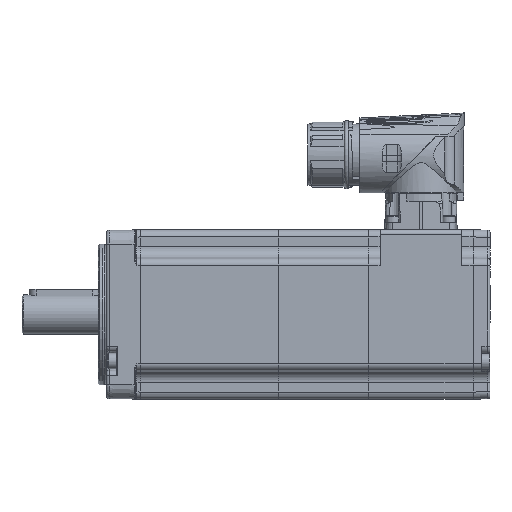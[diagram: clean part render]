
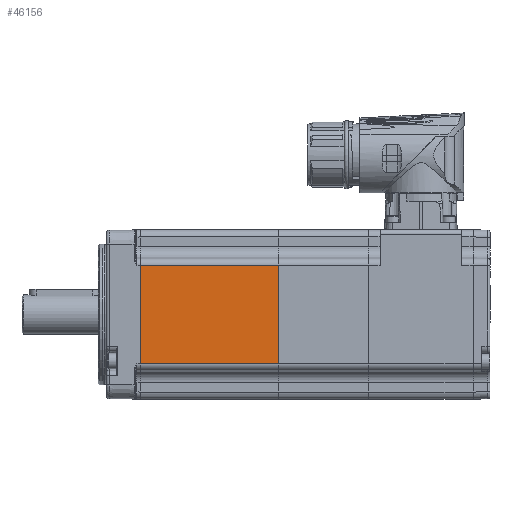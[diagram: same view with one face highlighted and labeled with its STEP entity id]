
A CAD part, left-side view. The second image highlights one B-rep face of the part: STEP entity #46156.
In plain terms, the highlighted planar face has unit normal (-1, 0, 0) as drawn and (0, 1, 0) by its records, which use the part's own axes.
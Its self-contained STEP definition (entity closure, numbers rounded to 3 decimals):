
#16958=LINE('',#66744,#19154);
#16959=LINE('',#66747,#19155);
#16960=LINE('',#66749,#19156);
#16961=LINE('',#66751,#19157);
#19154=VECTOR('',#54552,1000.);
#19155=VECTOR('',#54553,1000.);
#19156=VECTOR('',#54554,1000.);
#19157=VECTOR('',#54555,1000.);
#24092=ORIENTED_EDGE('',*,*,#31653,.T.);
#24093=ORIENTED_EDGE('',*,*,#31654,.T.);
#24094=ORIENTED_EDGE('',*,*,#31655,.T.);
#24095=ORIENTED_EDGE('',*,*,#31656,.T.);
#31653=EDGE_CURVE('',#35794,#35795,#16958,.F.);
#31654=EDGE_CURVE('',#35795,#35796,#16959,.T.);
#31655=EDGE_CURVE('',#35796,#35797,#16960,.T.);
#31656=EDGE_CURVE('',#35797,#35794,#16961,.T.);
#35794=VERTEX_POINT('',#66745);
#35795=VERTEX_POINT('',#66746);
#35796=VERTEX_POINT('',#66748);
#35797=VERTEX_POINT('',#66750);
#40135=EDGE_LOOP('',(#24092,#24093,#24094,#24095));
#42813=FACE_BOUND('',#40135,.T.);
#44951=PLANE('',#48704);
#46156=ADVANCED_FACE('',(#42813),#44951,.T.);
#48704=AXIS2_PLACEMENT_3D('',#66743,#54550,#54551);
#54550=DIRECTION('',(0.,1.,0.));
#54551=DIRECTION('',(0.,0.,1.));
#54552=DIRECTION('',(-1.,0.,0.));
#54553=DIRECTION('',(0.,0.,-1.));
#54554=DIRECTION('',(-1.,0.,0.));
#54555=DIRECTION('',(0.,0.,1.));
#66743=CARTESIAN_POINT('',(-200.,30.,-30.));
#66744=CARTESIAN_POINT('',(0.,30.,17.5));
#66745=CARTESIAN_POINT('',(-50.,30.,17.5));
#66746=CARTESIAN_POINT('',(-1.,30.,17.5));
#66747=CARTESIAN_POINT('',(-1.,30.,-30.));
#66748=CARTESIAN_POINT('',(-1.,30.,-17.5));
#66749=CARTESIAN_POINT('',(-200.,30.,-17.5));
#66750=CARTESIAN_POINT('',(-50.,30.,-17.5));
#66751=CARTESIAN_POINT('',(-50.,30.,-30.));
